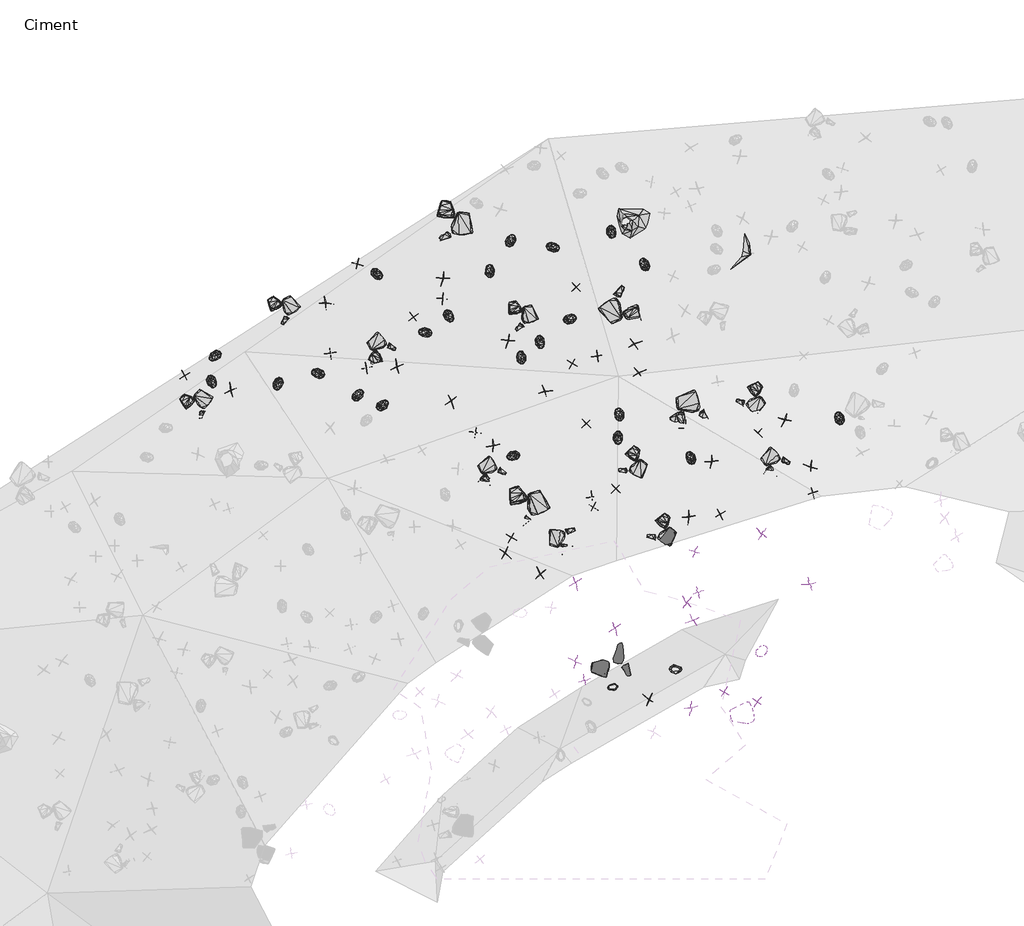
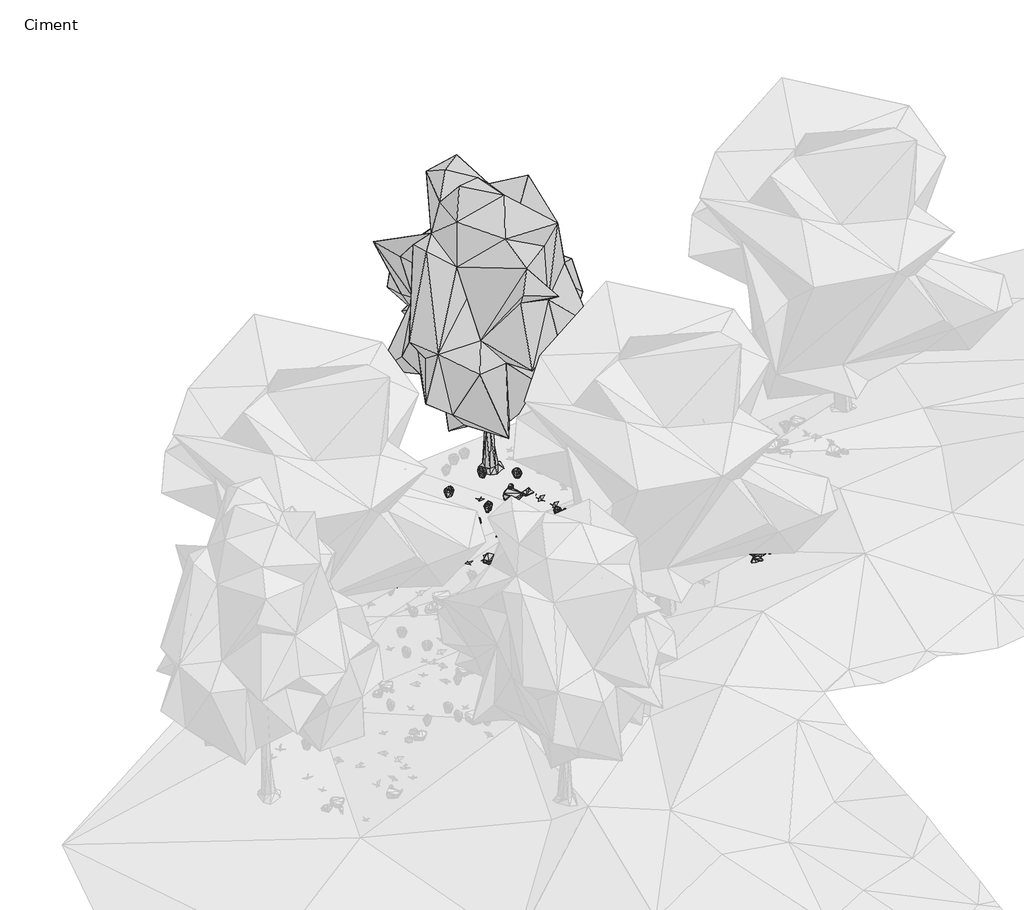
# One storey, part 23 of 30: 90 geographic elements.
"""IFC4 building model written with IfcOpenShell, lengths in millimetres."""

from ifc_helpers import new_model, si_unit, origin, place, context, project, spatial, transform, mapped, element, save
from components import enscape_assetdefinition_bush_025_fern_enscape_5718bf32, enscape_assetdefinition_bush_054_plant_09_version_2_enscape_7b546a12, enscape_assetdefinition_bush_062_plant_09_version_3_enscape_ccf8c8eb, enscape_assetdefinition_deciduous_tree_024_elm_enscape_8f9d8ef3, enscape_assetdefinition_stone_013_group_enscape_516da325, enscape_assetdefinition_stone_013_group_enscape_db9b3e91

model = new_model("IFC4")

# Units and contexts
model_context = context("Model", 3, world=origin())
ifc_project = project(units=[si_unit("LENGTHUNIT", "METRE", prefix="MILLI")], contexts=[model_context])

# Site, building, storey
site = spatial("IfcSite", under=ifc_project)
building = spatial("IfcBuilding", under=site)
storey = spatial("IfcBuildingStorey", under=building, Name="Ciment", Elevation=-1500.0)

# Geographic elements
placement = place(None, origin())
enscape_assetdefinition_bush_025_fern_enscape_shape = enscape_assetdefinition_bush_025_fern_enscape_5718bf32(model_context)
element("IfcGeographicElement", 1, ObjectType="Enscape AssetDefinition - Bush 025 Fern : Enscape AssetDefinition - Bush 025 Fern", at=placement, inside=storey, context=model_context, shape_type="MappedRepresentation", body=[
    mapped(enscape_assetdefinition_bush_025_fern_enscape_shape, transform((-4912.6815796, 19694.4961548, -2589.3216133), x_axis=(0.3183547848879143, -0.9479716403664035, 0.0), y_axis=(0.9479716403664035, 0.3183547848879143, 0.0), z_axis=(0.0, 0.0, 1.0))),
])
element("IfcGeographicElement", 2, ObjectType="Enscape AssetDefinition - Bush 025 Fern : Enscape AssetDefinition - Bush 025 Fern", at=placement, inside=storey, context=model_context, shape_type="MappedRepresentation", body=[
    mapped(enscape_assetdefinition_bush_025_fern_enscape_shape, transform((-4225.6660461, 19037.4736786, -2444.475174), x_axis=(-0.5487676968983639, 0.8359748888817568, 0.0), y_axis=(-0.8359748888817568, -0.5487676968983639, 0.0), z_axis=(0.0, 0.0, 1.0))),
])
element("IfcGeographicElement", 3, ObjectType="Enscape AssetDefinition - Bush 025 Fern : Enscape AssetDefinition - Bush 025 Fern", at=placement, inside=storey, context=model_context, shape_type="MappedRepresentation", body=[
    mapped(enscape_assetdefinition_bush_025_fern_enscape_shape, transform((-11809.4577789, 16556.1981201, -2718.5091972), x_axis=(-0.22429598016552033, -0.9745210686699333, 0.0), y_axis=(0.9745210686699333, -0.22429598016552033, 0.0), z_axis=(0.0, 0.0, 1.0))),
])
element("IfcGeographicElement", 4, ObjectType="Enscape AssetDefinition - Bush 025 Fern : Enscape AssetDefinition - Bush 025 Fern", at=placement, inside=storey, context=model_context, shape_type="MappedRepresentation", body=[
    mapped(enscape_assetdefinition_bush_025_fern_enscape_shape, transform((-13113.2469177, 17137.1498108, -2999.9995232), x_axis=(-0.7090326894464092, -0.7051756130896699, 0.0), y_axis=(0.7051756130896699, -0.7090326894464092, 0.0), z_axis=(0.0, 0.0, 1.0))),
])
element("IfcGeographicElement", 5, ObjectType="Enscape AssetDefinition - Bush 025 Fern : Enscape AssetDefinition - Bush 025 Fern", at=placement, inside=storey, context=model_context, shape_type="MappedRepresentation", body=[
    mapped(enscape_assetdefinition_bush_025_fern_enscape_shape, transform((-6388.6623383, 17417.1581268, -2309.4286919), x_axis=(0.3408758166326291, -0.9401083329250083, 0.0), y_axis=(0.9401083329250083, 0.3408758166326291, 0.0), z_axis=(0.0, 0.0, 1.0))),
])
element("IfcGeographicElement", 6, ObjectType="Enscape AssetDefinition - Bush 025 Fern : Enscape AssetDefinition - Bush 025 Fern", at=placement, inside=storey, context=model_context, shape_type="MappedRepresentation", body=[
    mapped(enscape_assetdefinition_bush_025_fern_enscape_shape, transform((-7420.1869965, 18897.9415894, -2681.8473339), x_axis=(-0.15301906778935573, 0.988223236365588, 0.0), y_axis=(-0.988223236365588, -0.15301906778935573, 0.0), z_axis=(0.0, 0.0, 1.0))),
])
element("IfcGeographicElement", 7, ObjectType="Enscape AssetDefinition - Bush 025 Fern : Enscape AssetDefinition - Bush 025 Fern", at=placement, inside=storey, context=model_context, shape_type="MappedRepresentation", body=[
    mapped(enscape_assetdefinition_bush_025_fern_enscape_shape, transform((-4887.0887756, 10288.6075974, -371.833086), x_axis=(-0.9799940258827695, -0.19902690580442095, 0.0), y_axis=(0.19902690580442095, -0.9799940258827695, 0.0), z_axis=(0.0, 0.0, 1.0))),
])
element("IfcGeographicElement", 8, ObjectType="Enscape AssetDefinition - Bush 025 Fern : Enscape AssetDefinition - Bush 025 Fern", at=placement, inside=storey, context=model_context, shape_type="MappedRepresentation", body=[
    mapped(enscape_assetdefinition_bush_025_fern_enscape_shape, transform((-8766.3269043, 17628.5648346, -2627.0060539), x_axis=(-0.9991022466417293, 0.04236390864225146, 0.0), y_axis=(-0.04236390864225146, -0.9991022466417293, 0.0), z_axis=(0.0, 0.0, 1.0))),
])
element("IfcGeographicElement", 9, ObjectType="Enscape AssetDefinition - Bush 025 Fern : Enscape AssetDefinition - Bush 025 Fern", at=placement, inside=storey, context=model_context, shape_type="MappedRepresentation", body=[
    mapped(enscape_assetdefinition_bush_025_fern_enscape_shape, transform((-3267.742157, 15037.18853, -1036.5991592), x_axis=(-0.5101921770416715, 0.860060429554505, 0.0), y_axis=(-0.860060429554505, -0.5101921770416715, 0.0), z_axis=(0.0, 0.0, 1.0))),
])
element("IfcGeographicElement", 10, ObjectType="Enscape AssetDefinition - Bush 025 Fern : Enscape AssetDefinition - Bush 025 Fern", at=placement, inside=storey, context=model_context, shape_type="MappedRepresentation", body=[
    mapped(enscape_assetdefinition_bush_025_fern_enscape_shape, transform((-3573.1983185, 10655.1980972, -447.3353624), x_axis=(0.999863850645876, -0.01650091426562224, 0.0), y_axis=(0.01650091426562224, 0.999863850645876, 0.0), z_axis=(0.0, 0.0, 1.0))),
])
element("IfcGeographicElement", 11, ObjectType="Enscape AssetDefinition - Bush 025 Fern : Enscape AssetDefinition - Bush 025 Fern", at=placement, inside=storey, context=model_context, shape_type="MappedRepresentation", body=[
    mapped(enscape_assetdefinition_bush_025_fern_enscape_shape, transform((-6110.5399132, 19379.1122437, -2607.8710556), x_axis=(0.9918097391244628, -0.12772408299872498, 0.0), y_axis=(0.12772408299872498, 0.9918097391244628, 0.0), z_axis=(0.0, 0.0, 1.0))),
])
element("IfcGeographicElement", 12, ObjectType="Enscape AssetDefinition - Bush 025 Fern : Enscape AssetDefinition - Bush 025 Fern", at=placement, inside=storey, context=model_context, shape_type="MappedRepresentation", body=[
    mapped(enscape_assetdefinition_bush_025_fern_enscape_shape, transform((-10142.0545578, 16331.2492371, -2466.5060043), x_axis=(0.566120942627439, 0.8243221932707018, 0.0), y_axis=(-0.8243221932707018, 0.566120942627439, 0.0), z_axis=(0.0, 0.0, 1.0))),
])
element("IfcGeographicElement", 13, ObjectType="Enscape AssetDefinition - Bush 025 Fern : Enscape AssetDefinition - Bush 025 Fern", at=placement, inside=storey, context=model_context, shape_type="MappedRepresentation", body=[
    mapped(enscape_assetdefinition_bush_025_fern_enscape_shape, transform((-6982.4771881, 19526.7906189, -2736.1834049), x_axis=(0.3200768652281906, 0.9473915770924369, 0.0), y_axis=(-0.9473915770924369, 0.3200768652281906, 0.0), z_axis=(0.0, 0.0, 1.0))),
])
element("IfcGeographicElement", 14, ObjectType="Enscape AssetDefinition - Bush 025 Fern : Enscape AssetDefinition - Bush 025 Fern", at=placement, inside=storey, context=model_context, shape_type="MappedRepresentation", body=[
    mapped(enscape_assetdefinition_bush_025_fern_enscape_shape, transform((-6772.5105286, 17112.4324799, -2303.4591675), x_axis=(-0.29993198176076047, 0.9539605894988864, 0.0), y_axis=(-0.9539605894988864, -0.29993198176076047, 0.0), z_axis=(0.0, 0.0, 1.0))),
])
element("IfcGeographicElement", 15, ObjectType="Enscape AssetDefinition - Bush 025 Fern : Enscape AssetDefinition - Bush 025 Fern", at=placement, inside=storey, context=model_context, shape_type="MappedRepresentation", body=[
    mapped(enscape_assetdefinition_bush_025_fern_enscape_shape, transform((-1792.4766541, 11036.2262726, -198.1508732), x_axis=(0.5283994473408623, 0.8489958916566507, 0.0), y_axis=(-0.8489958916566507, 0.5283994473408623, 0.0), z_axis=(0.0, 0.0, 1.0))),
])
element("IfcGeographicElement", 16, ObjectType="Enscape AssetDefinition - Bush 025 Fern : Enscape AssetDefinition - Bush 025 Fern", at=placement, inside=storey, context=model_context, shape_type="MappedRepresentation", body=[
    mapped(enscape_assetdefinition_bush_025_fern_enscape_shape, transform((-5756.975174, 17899.7764587, -2316.0667419), x_axis=(0.8886945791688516, 0.45849966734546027, 0.0), y_axis=(-0.45849966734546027, 0.8886945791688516, 0.0), z_axis=(0.0, 0.0, 1.0))),
])
element("IfcGeographicElement", 17, ObjectType="Enscape AssetDefinition - Bush 025 Fern : Enscape AssetDefinition - Bush 025 Fern", at=placement, inside=storey, context=model_context, shape_type="MappedRepresentation", body=[
    mapped(enscape_assetdefinition_bush_025_fern_enscape_shape, transform((-4776.3710022, 15435.4429245, -1425.8910418), x_axis=(0.15044176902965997, -0.9886188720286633, 0.0), y_axis=(0.9886188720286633, 0.15044176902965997, 0.0), z_axis=(0.0, 0.0, 1.0))),
])
element("IfcGeographicElement", 18, ObjectType="Enscape AssetDefinition - Bush 025 Fern : Enscape AssetDefinition - Bush 025 Fern", at=placement, inside=storey, context=model_context, shape_type="MappedRepresentation", body=[
    mapped(enscape_assetdefinition_bush_025_fern_enscape_shape, transform((-8272.0127106, 17952.9819489, -2623.2070923), x_axis=(0.6260952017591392, -0.77974662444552, 0.0), y_axis=(0.77974662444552, 0.6260952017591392, 0.0), z_axis=(0.0, 0.0, 1.0))),
])
element("IfcGeographicElement", 19, ObjectType="Enscape AssetDefinition - Bush 025 Fern : Enscape AssetDefinition - Bush 025 Fern", at=placement, inside=storey, context=model_context, shape_type="MappedRepresentation", body=[
    mapped(enscape_assetdefinition_bush_025_fern_enscape_shape, transform((-9754.9781799, 18820.8007812, -2945.6019402), x_axis=(0.8645845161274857, -0.5024874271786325, 0.0), y_axis=(0.5024874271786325, 0.8645845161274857, 0.0), z_axis=(0.0, 0.0, 1.0))),
])
element("IfcGeographicElement", 20, ObjectType="Enscape AssetDefinition - Bush 025 Fern : Enscape AssetDefinition - Bush 025 Fern", at=placement, inside=storey, context=model_context, shape_type="MappedRepresentation", body=[
    mapped(enscape_assetdefinition_bush_025_fern_enscape_shape, transform((-189.8975372, 15855.1130295, -1205.4451704), x_axis=(-0.41209623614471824, 0.9111403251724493, 0.0), y_axis=(-0.9111403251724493, -0.41209623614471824, 0.0), z_axis=(0.0, 0.0, 1.0))),
])
element("IfcGeographicElement", 21, ObjectType="Enscape AssetDefinition - Bush 025 Fern : Enscape AssetDefinition - Bush 025 Fern", at=placement, inside=storey, context=model_context, shape_type="MappedRepresentation", body=[
    mapped(enscape_assetdefinition_bush_025_fern_enscape_shape, transform((-13173.5210419, 16598.8998413, -2959.851265), x_axis=(0.5364966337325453, -0.8439024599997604, 0.0), y_axis=(0.8439024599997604, 0.5364966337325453, 0.0), z_axis=(0.0, 0.0, 1.0))),
])
element("IfcGeographicElement", 22, ObjectType="Enscape AssetDefinition - Bush 025 Fern : Enscape AssetDefinition - Bush 025 Fern", at=placement, inside=storey, context=model_context, shape_type="MappedRepresentation", body=[
    mapped(enscape_assetdefinition_bush_025_fern_enscape_shape, transform((-4743.1735992, 15933.3076477, -1643.8509226), x_axis=(-0.26148892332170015, 0.9652064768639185, 0.0), y_axis=(-0.9652064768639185, -0.26148892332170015, 0.0), z_axis=(0.0, 0.0, 1.0))),
])
element("IfcGeographicElement", 23, ObjectType="Enscape AssetDefinition - Bush 025 Fern : Enscape AssetDefinition - Bush 025 Fern", at=placement, inside=storey, context=model_context, shape_type="MappedRepresentation", body=[
    mapped(enscape_assetdefinition_bush_025_fern_enscape_shape, transform((-9635.8652115, 16116.1365509, -2344.5174694), x_axis=(0.7308365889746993, 0.6825524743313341, 0.0), y_axis=(-0.6825524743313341, 0.7308365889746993, 0.0), z_axis=(0.0, 0.0, 1.0))),
])
element("IfcGeographicElement", 24, ObjectType="Enscape AssetDefinition - Bush 025 Fern : Enscape AssetDefinition - Bush 025 Fern", at=placement, inside=storey, context=model_context, shape_type="MappedRepresentation", body=[
    mapped(enscape_assetdefinition_bush_025_fern_enscape_shape, transform((-10981.1515808, 16782.6004028, -2698.0805397), x_axis=(-0.9767430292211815, 0.2144132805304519, 0.0), y_axis=(-0.2144132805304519, -0.9767430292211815, 0.0), z_axis=(0.0, 0.0, 1.0))),
])
element("IfcGeographicElement", 25, ObjectType="Enscape AssetDefinition - Bush 025 Fern : Enscape AssetDefinition - Bush 025 Fern", at=placement, inside=storey, context=model_context, shape_type="MappedRepresentation", body=[
    mapped(enscape_assetdefinition_bush_025_fern_enscape_shape, transform((-6945.4612732, 15073.1735229, -1606.1544418), x_axis=(-0.9158306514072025, -0.4015647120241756, 0.0), y_axis=(0.4015647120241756, -0.9158306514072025, 0.0), z_axis=(0.0, 0.0, 1.0))),
])
enscape_assetdefinition_bush_054_plant_09_version_2_enscape_shape = enscape_assetdefinition_bush_054_plant_09_version_2_enscape_7b546a12(model_context)
element("IfcGeographicElement", 26, ObjectType="Enscape AssetDefinition - Bush 054 Plant 09, Version 2 : Enscape AssetDefinition - Bush 054 Plant 09, Version 2", at=placement, inside=storey, context=model_context, shape_type="MappedRepresentation", body=[
    mapped(enscape_assetdefinition_bush_054_plant_09_version_2_enscape_shape, transform((-9008.3789825, 17939.2871857, -2708.1887722), x_axis=(0.6469254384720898, -0.7625532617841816, 0.0), y_axis=(0.7625532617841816, 0.6469254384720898, 0.0), z_axis=(0.0, 0.0, 1.0))),
])
element("IfcGeographicElement", 27, ObjectType="Enscape AssetDefinition - Bush 054 Plant 09, Version 2 : Enscape AssetDefinition - Bush 054 Plant 09, Version 2", at=placement, inside=storey, context=model_context, shape_type="MappedRepresentation", body=[
    mapped(enscape_assetdefinition_bush_054_plant_09_version_2_enscape_shape, transform((-5467.8516388, 10430.0861359, -279.2385817), x_axis=(0.30696778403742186, -0.9517199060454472, 0.0), y_axis=(0.9517199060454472, 0.30696778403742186, 0.0), z_axis=(0.0, 0.0, 1.0))),
])
element("IfcGeographicElement", 28, ObjectType="Enscape AssetDefinition - Bush 054 Plant 09, Version 2 : Enscape AssetDefinition - Bush 054 Plant 09, Version 2", at=placement, inside=storey, context=model_context, shape_type="MappedRepresentation", body=[
    mapped(enscape_assetdefinition_bush_054_plant_09_version_2_enscape_shape, transform((-2659.1300964, 13866.6687012, -428.0198812), x_axis=(-0.8456550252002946, -0.5337298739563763, 0.0), y_axis=(0.5337298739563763, -0.8456550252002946, 0.0), z_axis=(0.0, 0.0, 1.0))),
])
element("IfcGeographicElement", 29, ObjectType="Enscape AssetDefinition - Bush 054 Plant 09, Version 2 : Enscape AssetDefinition - Bush 054 Plant 09, Version 2", at=placement, inside=storey, context=model_context, shape_type="MappedRepresentation", body=[
    mapped(enscape_assetdefinition_bush_054_plant_09_version_2_enscape_shape, transform((-5716.9532776, 16976.5167236, -2155.3649902), x_axis=(0.4449986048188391, 0.8955312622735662, 0.0), y_axis=(-0.8955312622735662, 0.4449986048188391, 0.0), z_axis=(0.0, 0.0, 1.0))),
])
element("IfcGeographicElement", 30, ObjectType="Enscape AssetDefinition - Bush 054 Plant 09, Version 2 : Enscape AssetDefinition - Bush 054 Plant 09, Version 2", at=placement, inside=storey, context=model_context, shape_type="MappedRepresentation", body=[
    mapped(enscape_assetdefinition_bush_054_plant_09_version_2_enscape_shape, transform((-2578.962326, 10189.2271042, -236.0366583), x_axis=(-0.4748401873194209, -0.8800720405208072, 0.0), y_axis=(0.8800720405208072, -0.4748401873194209, 0.0), z_axis=(0.0, 0.0, 1.0))),
])
element("IfcGeographicElement", 31, ObjectType="Enscape AssetDefinition - Bush 054 Plant 09, Version 2 : Enscape AssetDefinition - Bush 054 Plant 09, Version 2", at=placement, inside=storey, context=model_context, shape_type="MappedRepresentation", body=[
    mapped(enscape_assetdefinition_bush_054_plant_09_version_2_enscape_shape, transform((-3186.0084534, 13084.8970413, -152.2381306), x_axis=(0.958673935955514, -0.2845070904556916, 0.0), y_axis=(0.2845070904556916, 0.958673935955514, 0.0), z_axis=(0.0, 0.0, 1.0))),
])
element("IfcGeographicElement", 32, ObjectType="Enscape AssetDefinition - Bush 054 Plant 09, Version 2 : Enscape AssetDefinition - Bush 054 Plant 09, Version 2", at=placement, inside=storey, context=model_context, shape_type="MappedRepresentation", body=[
    mapped(enscape_assetdefinition_bush_054_plant_09_version_2_enscape_shape, transform((-1874.3783236, 15546.0500717, -1137.3375654), x_axis=(-0.7586055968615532, 0.651550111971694, 0.0), y_axis=(-0.651550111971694, -0.7586055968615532, 0.0), z_axis=(0.0, 0.0, 1.0))),
])
element("IfcGeographicElement", 33, ObjectType="Enscape AssetDefinition - Bush 054 Plant 09, Version 2 : Enscape AssetDefinition - Bush 054 Plant 09, Version 2", at=placement, inside=storey, context=model_context, shape_type="MappedRepresentation", body=[
    mapped(enscape_assetdefinition_bush_054_plant_09_version_2_enscape_shape, transform((-10167.3307419, 19040.5673981, -2999.9995232), x_axis=(-0.19354821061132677, -0.9810907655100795, 0.0), y_axis=(0.9810907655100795, -0.19354821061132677, 0.0), z_axis=(0.0, 0.0, 1.0))),
])
element("IfcGeographicElement", 34, ObjectType="Enscape AssetDefinition - Bush 054 Plant 09, Version 2 : Enscape AssetDefinition - Bush 054 Plant 09, Version 2", at=placement, inside=storey, context=model_context, shape_type="MappedRepresentation", body=[
    mapped(enscape_assetdefinition_bush_054_plant_09_version_2_enscape_shape, transform((-1895.2083588, 9982.3865891, -73.8215446), x_axis=(0.8358775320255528, -0.5489159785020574, 0.0), y_axis=(0.5489159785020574, 0.8358775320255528, 0.0), z_axis=(0.0, 0.0, 1.0))),
])
element("IfcGeographicElement", 35, ObjectType="Enscape AssetDefinition - Bush 054 Plant 09, Version 2 : Enscape AssetDefinition - Bush 054 Plant 09, Version 2", at=placement, inside=storey, context=model_context, shape_type="MappedRepresentation", body=[
    mapped(enscape_assetdefinition_bush_054_plant_09_version_2_enscape_shape, transform((-5426.9142151, 15733.9906693, -1662.0075703), x_axis=(0.6650526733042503, 0.746796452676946, 0.0), y_axis=(-0.746796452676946, 0.6650526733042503, 0.0), z_axis=(0.0, 0.0, 1.0))),
])
element("IfcGeographicElement", 36, ObjectType="Enscape AssetDefinition - Bush 054 Plant 09, Version 2 : Enscape AssetDefinition - Bush 054 Plant 09, Version 2", at=placement, inside=storey, context=model_context, shape_type="MappedRepresentation", body=[
    mapped(enscape_assetdefinition_bush_054_plant_09_version_2_enscape_shape, transform((-6975.4962921, 13377.9573441, -852.5823355), x_axis=(0.45000106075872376, 0.8930280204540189, 0.0), y_axis=(-0.8930280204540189, 0.45000106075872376, 0.0), z_axis=(0.0, 0.0, 1.0))),
])
element("IfcGeographicElement", 37, ObjectType="Enscape AssetDefinition - Bush 054 Plant 09, Version 2 : Enscape AssetDefinition - Bush 054 Plant 09, Version 2", at=placement, inside=storey, context=model_context, shape_type="MappedRepresentation", body=[
    mapped(enscape_assetdefinition_bush_054_plant_09_version_2_enscape_shape, transform((-7716.4955139, 15549.8371124, -1941.1094189), x_axis=(0.07800668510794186, 0.9969528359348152, 0.0), y_axis=(-0.9969528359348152, 0.07800668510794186, 0.0), z_axis=(0.0, 0.0, 1.0))),
])
element("IfcGeographicElement", 38, ObjectType="Enscape AssetDefinition - Bush 054 Plant 09, Version 2 : Enscape AssetDefinition - Bush 054 Plant 09, Version 2", at=placement, inside=storey, context=model_context, shape_type="MappedRepresentation", body=[
    mapped(enscape_assetdefinition_bush_054_plant_09_version_2_enscape_shape, transform((-5279.8748016, 14006.5002441, -866.0410643), x_axis=(-0.891727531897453, 0.4525726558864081, 0.0), y_axis=(-0.4525726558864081, -0.891727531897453, 0.0), z_axis=(0.0, 0.0, 1.0))),
])
element("IfcGeographicElement", 39, ObjectType="Enscape AssetDefinition - Bush 054 Plant 09, Version 2 : Enscape AssetDefinition - Bush 054 Plant 09, Version 2", at=placement, inside=storey, context=model_context, shape_type="MappedRepresentation", body=[
    mapped(enscape_assetdefinition_bush_054_plant_09_version_2_enscape_shape, transform((-4818.1438446, 14383.471489, -961.7717266), x_axis=(0.662220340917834, 0.7493091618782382, 0.0), y_axis=(-0.7493091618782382, 0.662220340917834, 0.0), z_axis=(0.0, 0.0, 1.0))),
])
element("IfcGeographicElement", 40, ObjectType="Enscape AssetDefinition - Bush 054 Plant 09, Version 2 : Enscape AssetDefinition - Bush 054 Plant 09, Version 2", at=placement, inside=storey, context=model_context, shape_type="MappedRepresentation", body=[
    mapped(enscape_assetdefinition_bush_054_plant_09_version_2_enscape_shape, transform((-13739.730835, 16731.0447693, -2999.9995232), x_axis=(0.5296157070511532, -0.8482377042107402, 0.0), y_axis=(0.8482377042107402, 0.5296157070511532, 0.0), z_axis=(0.0, 0.0, 1.0))),
])
element("IfcGeographicElement", 41, ObjectType="Enscape AssetDefinition - Bush 054 Plant 09, Version 2 : Enscape AssetDefinition - Bush 054 Plant 09, Version 2", at=placement, inside=storey, context=model_context, shape_type="MappedRepresentation", body=[
    mapped(enscape_assetdefinition_bush_054_plant_09_version_2_enscape_shape, transform((-743.4539795, 14313.0083084, -359.3782187), x_axis=(-0.9408558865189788, -0.33880702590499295, 0.0), y_axis=(0.33880702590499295, -0.9408558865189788, 0.0), z_axis=(0.0, 0.0, 1.0))),
])
element("IfcGeographicElement", 42, ObjectType="Enscape AssetDefinition - Bush 054 Plant 09, Version 2 : Enscape AssetDefinition - Bush 054 Plant 09, Version 2", at=placement, inside=storey, context=model_context, shape_type="MappedRepresentation", body=[
    mapped(enscape_assetdefinition_bush_054_plant_09_version_2_enscape_shape, transform((-5636.5356445, 18550.901413, -2411.7774963), x_axis=(0.681139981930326, 0.7321532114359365, 0.0), y_axis=(-0.7321532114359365, 0.681139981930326, 0.0), z_axis=(0.0, 0.0, 1.0))),
])
element("IfcGeographicElement", 43, ObjectType="Enscape AssetDefinition - Bush 054 Plant 09, Version 2 : Enscape AssetDefinition - Bush 054 Plant 09, Version 2", at=placement, inside=storey, context=model_context, shape_type="MappedRepresentation", body=[
    mapped(enscape_assetdefinition_bush_054_plant_09_version_2_enscape_shape, transform((-8403.0380249, 18314.7087097, -2699.8429298), x_axis=(0.9996959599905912, -0.02465740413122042, 0.0), y_axis=(0.02465740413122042, 0.9996959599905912, 0.0), z_axis=(0.0, 0.0, 1.0))),
])
element("IfcGeographicElement", 44, ObjectType="Enscape AssetDefinition - Bush 054 Plant 09, Version 2 : Enscape AssetDefinition - Bush 054 Plant 09, Version 2", at=placement, inside=storey, context=model_context, shape_type="MappedRepresentation", body=[
    mapped(enscape_assetdefinition_bush_054_plant_09_version_2_enscape_shape, transform((-3116.3654327, 12252.3832321, -130.3107738), x_axis=(-0.9358680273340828, -0.35235072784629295, 0.0), y_axis=(0.35235072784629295, -0.9358680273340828, 0.0), z_axis=(0.0, 0.0, 1.0))),
])
element("IfcGeographicElement", 45, ObjectType="Enscape AssetDefinition - Bush 054 Plant 09, Version 2 : Enscape AssetDefinition - Bush 054 Plant 09, Version 2", at=placement, inside=storey, context=model_context, shape_type="MappedRepresentation", body=[
    mapped(enscape_assetdefinition_bush_054_plant_09_version_2_enscape_shape, transform((-10716.6442871, 17191.8525696, -2784.4433784), x_axis=(-0.20446049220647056, 0.9788748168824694, 0.0), y_axis=(-0.9788748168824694, -0.20446049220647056, 0.0), z_axis=(0.0, 0.0, 1.0))),
])
element("IfcGeographicElement", 46, ObjectType="Enscape AssetDefinition - Bush 054 Plant 09, Version 2 : Enscape AssetDefinition - Bush 054 Plant 09, Version 2", at=placement, inside=storey, context=model_context, shape_type="MappedRepresentation", body=[
    mapped(enscape_assetdefinition_bush_054_plant_09_version_2_enscape_shape, transform((-5204.7462463, 17129.5833588, -2120.5000877), x_axis=(0.9813568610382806, 0.19219446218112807, 0.0), y_axis=(-0.19219446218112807, 0.9813568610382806, 0.0), z_axis=(0.0, 0.0, 1.0))),
])
element("IfcGeographicElement", 47, ObjectType="Enscape AssetDefinition - Bush 054 Plant 09, Version 2 : Enscape AssetDefinition - Bush 054 Plant 09, Version 2", at=placement, inside=storey, context=model_context, shape_type="MappedRepresentation", body=[
    mapped(enscape_assetdefinition_bush_054_plant_09_version_2_enscape_shape, transform((-9971.1780548, 16896.1982727, -2622.8423119), x_axis=(-0.9731601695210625, -0.23012884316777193, 0.0), y_axis=(0.23012884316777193, -0.9731601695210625, 0.0), z_axis=(0.0, 0.0, 1.0))),
])
element("IfcGeographicElement", 48, ObjectType="Enscape AssetDefinition - Bush 054 Plant 09, Version 2 : Enscape AssetDefinition - Bush 054 Plant 09, Version 2", at=placement, inside=storey, context=model_context, shape_type="MappedRepresentation", body=[
    mapped(enscape_assetdefinition_bush_054_plant_09_version_2_enscape_shape, transform((-5315.3438568, 14222.287178, -968.1682587), x_axis=(0.16615324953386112, -0.9860999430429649, 0.0), y_axis=(0.9860999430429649, 0.16615324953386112, 0.0), z_axis=(0.0, 0.0, 1.0))),
])
enscape_assetdefinition_bush_062_plant_09_version_3_enscape_shape = enscape_assetdefinition_bush_062_plant_09_version_3_enscape_ccf8c8eb(model_context)
element("IfcGeographicElement", 49, ObjectType="Enscape AssetDefinition - Bush 062 Plant 09, Version 3 : Enscape AssetDefinition - Bush 062 Plant 09, Version 3", at=placement, inside=storey, context=model_context, shape_type="MappedRepresentation", body=[
    mapped(enscape_assetdefinition_bush_062_plant_09_version_3_enscape_shape, transform((-3303.4040928, 13796.5154648, -486.8569374), x_axis=(-0.9692846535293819, -0.24594157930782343, 0.0), y_axis=(0.24594157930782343, -0.9692846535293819, 0.0), z_axis=(0.0, 0.0, 1.0))),
])
element("IfcGeographicElement", 50, ObjectType="Enscape AssetDefinition - Bush 062 Plant 09, Version 3 : Enscape AssetDefinition - Bush 062 Plant 09, Version 3", at=placement, inside=storey, context=model_context, shape_type="MappedRepresentation", body=[
    mapped(enscape_assetdefinition_bush_062_plant_09_version_3_enscape_shape, transform((-3257.7438354, 9848.7091064, -171.0724831), x_axis=(-0.9697009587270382, -0.24429500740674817, 0.0), y_axis=(0.24429500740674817, -0.9697009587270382, 0.0), z_axis=(0.0, 0.0, 1.0))),
])
element("IfcGeographicElement", 51, ObjectType="Enscape AssetDefinition - Bush 062 Plant 09, Version 3 : Enscape AssetDefinition - Bush 062 Plant 09, Version 3", at=placement, inside=storey, context=model_context, shape_type="MappedRepresentation", body=[
    mapped(enscape_assetdefinition_bush_062_plant_09_version_3_enscape_shape, transform((-8388.9942169, 18730.2742004, -2768.3753967), x_axis=(-0.9955141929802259, -0.09461232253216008, 0.0), y_axis=(0.09461232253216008, -0.9955141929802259, 0.0), z_axis=(0.0, 0.0, 1.0))),
])
element("IfcGeographicElement", 52, ObjectType="Enscape AssetDefinition - Bush 062 Plant 09, Version 3 : Enscape AssetDefinition - Bush 062 Plant 09, Version 3", at=placement, inside=storey, context=model_context, shape_type="MappedRepresentation", body=[
    mapped(enscape_assetdefinition_bush_062_plant_09_version_3_enscape_shape, transform((-12781.1012268, 16436.378479, -2845.9973335), x_axis=(0.8726142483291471, 0.4884100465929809, 0.0), y_axis=(-0.4884100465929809, 0.8726142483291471, 0.0), z_axis=(0.0, 0.0, 1.0))),
])
element("IfcGeographicElement", 53, ObjectType="Enscape AssetDefinition - Bush 062 Plant 09, Version 3 : Enscape AssetDefinition - Bush 062 Plant 09, Version 3", at=placement, inside=storey, context=model_context, shape_type="MappedRepresentation", body=[
    mapped(enscape_assetdefinition_bush_062_plant_09_version_3_enscape_shape, transform((-7350.7556915, 15269.7753906, -1758.0869198), x_axis=(-0.9590053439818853, -0.28338798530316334, 0.0), y_axis=(0.28338798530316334, -0.9590053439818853, 0.0), z_axis=(0.0, 0.0, 1.0))),
])
element("IfcGeographicElement", 54, ObjectType="Enscape AssetDefinition - Bush 062 Plant 09, Version 3 : Enscape AssetDefinition - Bush 062 Plant 09, Version 3", at=placement, inside=storey, context=model_context, shape_type="MappedRepresentation", body=[
    mapped(enscape_assetdefinition_bush_062_plant_09_version_3_enscape_shape, transform((-6384.4928741, 12637.2690201, -454.7224045), x_axis=(0.6673912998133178, 0.7447072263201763, 0.0), y_axis=(-0.7447072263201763, 0.6673912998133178, 0.0), z_axis=(0.0, 0.0, 1.0))),
])
element("IfcGeographicElement", 55, ObjectType="Enscape AssetDefinition - Bush 062 Plant 09, Version 3 : Enscape AssetDefinition - Bush 062 Plant 09, Version 3", at=placement, inside=storey, context=model_context, shape_type="MappedRepresentation", body=[
    mapped(enscape_assetdefinition_bush_062_plant_09_version_3_enscape_shape, transform((-4424.1847992, 17389.8200989, -2124.0558624), x_axis=(0.6849839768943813, -0.7285581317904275, 0.0), y_axis=(0.7285581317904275, 0.6849839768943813, 0.0), z_axis=(0.0, 0.0, 1.0))),
])
element("IfcGeographicElement", 56, ObjectType="Enscape AssetDefinition - Bush 062 Plant 09, Version 3 : Enscape AssetDefinition - Bush 062 Plant 09, Version 3", at=placement, inside=storey, context=model_context, shape_type="MappedRepresentation", body=[
    mapped(enscape_assetdefinition_bush_062_plant_09_version_3_enscape_shape, transform((-4827.9838562, 11497.9658127, -142.4840689), x_axis=(-0.7658645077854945, -0.6430019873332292, 0.0), y_axis=(0.6430019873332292, -0.7658645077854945, 0.0), z_axis=(0.0, 0.0, 1.0))),
])
element("IfcGeographicElement", 57, ObjectType="Enscape AssetDefinition - Bush 062 Plant 09, Version 3 : Enscape AssetDefinition - Bush 062 Plant 09, Version 3", at=placement, inside=storey, context=model_context, shape_type="MappedRepresentation", body=[
    mapped(enscape_assetdefinition_bush_062_plant_09_version_3_enscape_shape, transform((-4330.1181793, 16797.2869873, -2005.1383972), x_axis=(0.7058404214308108, -0.7083708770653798, 0.0), y_axis=(0.7083708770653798, 0.7058404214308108, 0.0), z_axis=(0.0, 0.0, 1.0))),
])
element("IfcGeographicElement", 58, ObjectType="Enscape AssetDefinition - Bush 062 Plant 09, Version 3 : Enscape AssetDefinition - Bush 062 Plant 09, Version 3", at=placement, inside=storey, context=model_context, shape_type="MappedRepresentation", body=[
    mapped(enscape_assetdefinition_bush_062_plant_09_version_3_enscape_shape, transform((-7041.4295197, 17443.1858063, -2391.2091255), x_axis=(-0.9984788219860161, -0.05513657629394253, 0.0), y_axis=(0.05513657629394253, -0.9984788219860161, 0.0), z_axis=(0.0, 0.0, 1.0))),
])
element("IfcGeographicElement", 59, ObjectType="Enscape AssetDefinition - Bush 062 Plant 09, Version 3 : Enscape AssetDefinition - Bush 062 Plant 09, Version 3", at=placement, inside=storey, context=model_context, shape_type="MappedRepresentation", body=[
    mapped(enscape_assetdefinition_bush_062_plant_09_version_3_enscape_shape, transform((-9347.4502563, 16922.077179, -2562.661171), x_axis=(0.8690333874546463, 0.49475344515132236, 0.0), y_axis=(-0.49475344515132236, 0.8690333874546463, 0.0), z_axis=(0.0, 0.0, 1.0))),
])
element("IfcGeographicElement", 60, ObjectType="Enscape AssetDefinition - Bush 062 Plant 09, Version 3 : Enscape AssetDefinition - Bush 062 Plant 09, Version 3", at=placement, inside=storey, context=model_context, shape_type="MappedRepresentation", body=[
    mapped(enscape_assetdefinition_bush_062_plant_09_version_3_enscape_shape, transform((-6273.9377022, 16405.4679871, -2066.5569305), x_axis=(0.46460229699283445, -0.8855194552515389, 0.0), y_axis=(0.8855194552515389, 0.46460229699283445, 0.0), z_axis=(0.0, 0.0, 1.0))),
])
element("IfcGeographicElement", 61, ObjectType="Enscape AssetDefinition - Bush 062 Plant 09, Version 3 : Enscape AssetDefinition - Bush 062 Plant 09, Version 3", at=placement, inside=storey, context=model_context, shape_type="MappedRepresentation", body=[
    mapped(enscape_assetdefinition_bush_062_plant_09_version_3_enscape_shape, transform((-3356.659174, 12044.6434021, -163.9122963), x_axis=(0.536335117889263, 0.8440051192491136, 0.0), y_axis=(-0.8440051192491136, 0.536335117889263, 0.0), z_axis=(0.0, 0.0, 1.0))),
])
element("IfcGeographicElement", 62, ObjectType="Enscape AssetDefinition - Bush 062 Plant 09, Version 3 : Enscape AssetDefinition - Bush 062 Plant 09, Version 3", at=placement, inside=storey, context=model_context, shape_type="MappedRepresentation", body=[
    mapped(enscape_assetdefinition_bush_062_plant_09_version_3_enscape_shape, transform((-7094.9444771, 13055.015564, -737.2428179), x_axis=(-0.3562141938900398, -0.9344043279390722, 0.0), y_axis=(0.9344043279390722, -0.3562141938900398, 0.0), z_axis=(0.0, 0.0, 1.0))),
])
element("IfcGeographicElement", 63, ObjectType="Enscape AssetDefinition - Bush 062 Plant 09, Version 3 : Enscape AssetDefinition - Bush 062 Plant 09, Version 3", at=placement, inside=storey, context=model_context, shape_type="MappedRepresentation", body=[
    mapped(enscape_assetdefinition_bush_062_plant_09_version_3_enscape_shape, transform((-8217.6475525, 16195.8122253, -2214.1318321), x_axis=(-0.7598498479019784, -0.6500986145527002, 0.0), y_axis=(0.6500986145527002, -0.7598498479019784, 0.0), z_axis=(0.0, 0.0, 1.0))),
])
element("IfcGeographicElement", 64, ObjectType="Enscape AssetDefinition - Bush 062 Plant 09, Version 3 : Enscape AssetDefinition - Bush 062 Plant 09, Version 3", at=placement, inside=storey, context=model_context, shape_type="MappedRepresentation", body=[
    mapped(enscape_assetdefinition_bush_062_plant_09_version_3_enscape_shape, transform((-3228.6605835, 11661.9968414, -271.1167336), x_axis=(-0.6356208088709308, 0.7720014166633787, 0.0), y_axis=(-0.7720014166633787, -0.6356208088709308, 0.0), z_axis=(0.0, 0.0, 1.0))),
])
element("IfcGeographicElement", 65, ObjectType="Enscape AssetDefinition - Bush 062 Plant 09, Version 3 : Enscape AssetDefinition - Bush 062 Plant 09, Version 3", at=placement, inside=storey, context=model_context, shape_type="MappedRepresentation", body=[
    mapped(enscape_assetdefinition_bush_062_plant_09_version_3_enscape_shape, transform((-5663.2480621, 10815.2227402, -176.9243479), x_axis=(0.14033501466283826, 0.9901040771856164, 0.0), y_axis=(-0.9901040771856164, 0.14033501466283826, 0.0), z_axis=(0.0, 0.0, 1.0))),
])
element("IfcGeographicElement", 66, ObjectType="Enscape AssetDefinition - Bush 062 Plant 09, Version 3 : Enscape AssetDefinition - Bush 062 Plant 09, Version 3", at=placement, inside=storey, context=model_context, shape_type="MappedRepresentation", body=[
    mapped(enscape_assetdefinition_bush_062_plant_09_version_3_enscape_shape, transform((-4139.421463, 10035.3755951, -488.3348942), x_axis=(0.31804048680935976, 0.9480771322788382, 0.0), y_axis=(-0.9480771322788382, 0.31804048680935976, 0.0), z_axis=(0.0, 0.0, 1.0))),
])
element("IfcGeographicElement", 67, ObjectType="Enscape AssetDefinition - Bush 062 Plant 09, Version 3 : Enscape AssetDefinition - Bush 062 Plant 09, Version 3", at=placement, inside=storey, context=model_context, shape_type="MappedRepresentation", body=[
    mapped(enscape_assetdefinition_bush_062_plant_09_version_3_enscape_shape, transform((-10805.4294586, 18235.2867126, -2971.2257385), x_axis=(0.24661433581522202, -0.9691137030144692, 0.0), y_axis=(0.9691137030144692, 0.24661433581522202, 0.0), z_axis=(0.0, 0.0, 1.0))),
])
element("IfcGeographicElement", 68, ObjectType="Enscape AssetDefinition - Bush 062 Plant 09, Version 3 : Enscape AssetDefinition - Bush 062 Plant 09, Version 3", at=placement, inside=storey, context=model_context, shape_type="MappedRepresentation", body=[
    mapped(enscape_assetdefinition_bush_062_plant_09_version_3_enscape_shape, transform((-5644.3195343, 12438.7378693, -237.2575998), x_axis=(-0.7975951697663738, -0.6031931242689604, 0.0), y_axis=(0.6031931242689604, -0.7975951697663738, 0.0), z_axis=(0.0, 0.0, 1.0))),
])
element("IfcGeographicElement", 69, ObjectType="Enscape AssetDefinition - Bush 062 Plant 09, Version 3 : Enscape AssetDefinition - Bush 062 Plant 09, Version 3", at=placement, inside=storey, context=model_context, shape_type="MappedRepresentation", body=[
    mapped(enscape_assetdefinition_bush_062_plant_09_version_3_enscape_shape, transform((-2835.0143433, 14943.0484772, -933.9215755), x_axis=(-0.983972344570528, -0.1783211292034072, 0.0), y_axis=(0.1783211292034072, -0.983972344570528, 0.0), z_axis=(0.0, 0.0, 1.0))),
])
element("IfcGeographicElement", 70, ObjectType="Enscape AssetDefinition - Bush 062 Plant 09, Version 3 : Enscape AssetDefinition - Bush 062 Plant 09, Version 3", at=placement, inside=storey, context=model_context, shape_type="MappedRepresentation", body=[
    mapped(enscape_assetdefinition_bush_062_plant_09_version_3_enscape_shape, transform((-1323.6846924, 15806.4002991, -1251.0546446), x_axis=(-0.9955702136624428, 0.09402100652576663, 0.0), y_axis=(-0.09402100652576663, -0.9955702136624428, 0.0), z_axis=(0.0, 0.0, 1.0))),
])
element("IfcGeographicElement", 71, ObjectType="Enscape AssetDefinition - Bush 062 Plant 09, Version 3 : Enscape AssetDefinition - Bush 062 Plant 09, Version 3", at=placement, inside=storey, context=model_context, shape_type="MappedRepresentation", body=[
    mapped(enscape_assetdefinition_bush_062_plant_09_version_3_enscape_shape, transform((-798.3264923, 14836.7061615, -660.3138447), x_axis=(-0.010609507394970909, 0.9999437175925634, 0.0), y_axis=(-0.9999437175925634, -0.010609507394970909, 0.0), z_axis=(0.0, 0.0, 1.0))),
])
element("IfcGeographicElement", 72, ObjectType="Enscape AssetDefinition - Bush 062 Plant 09, Version 3 : Enscape AssetDefinition - Bush 062 Plant 09, Version 3", at=placement, inside=storey, context=model_context, shape_type="MappedRepresentation", body=[
    mapped(enscape_assetdefinition_bush_062_plant_09_version_3_enscape_shape, transform((-1806.6177368, 13462.0008469, -127.7245283), x_axis=(0.4182689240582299, 0.9083232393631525, 0.0), y_axis=(-0.9083232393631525, 0.4182689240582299, 0.0), z_axis=(0.0, 0.0, 1.0))),
])
element("IfcGeographicElement", 73, ObjectType="Enscape AssetDefinition - Bush 062 Plant 09, Version 3 : Enscape AssetDefinition - Bush 062 Plant 09, Version 3", at=placement, inside=storey, context=model_context, shape_type="MappedRepresentation", body=[
    mapped(enscape_assetdefinition_bush_062_plant_09_version_3_enscape_shape, transform((-820.5509186, 12414.2465591, -103.1439304), x_axis=(-0.42255198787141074, 0.9063386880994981, 0.0), y_axis=(-0.9063386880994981, -0.42255198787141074, 0.0), z_axis=(0.0, 0.0, 1.0))),
])
enscape_assetdefinition_deciduous_tree_024_elm_enscape_shape = enscape_assetdefinition_deciduous_tree_024_elm_enscape_8f9d8ef3(model_context)
element("IfcGeographicElement", 74, ObjectType="Enscape AssetDefinition - Deciduous Tree 024 Elm : Enscape AssetDefinition - Deciduous Tree 024 Elm", at=placement, inside=storey, context=model_context, shape_type="MappedRepresentation", body=[
    mapped(enscape_assetdefinition_deciduous_tree_024_elm_enscape_shape, transform((-4442.7642822, 19812.6087189, -2602.1351814), x_axis=(0.5799828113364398, 0.8146287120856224, 0.0), y_axis=(-0.8146287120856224, 0.5799828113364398, 0.0), z_axis=(0.0, 0.0, 1.0))),
])
enscape_assetdefinition_stone_013_group_enscape_shape = enscape_assetdefinition_stone_013_group_enscape_516da325(model_context)
element("IfcGeographicElement", 75, ObjectType="Enscape AssetDefinition - Stone 013 Group : Enscape AssetDefinition - Stone 013 Group", at=placement, inside=storey, context=model_context, shape_type="MappedRepresentation", body=[
    mapped(enscape_assetdefinition_stone_013_group_enscape_shape, transform((-2147.2017765, 9537.6720428, 17.8272724), x_axis=(0.9444748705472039, 0.3285836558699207, 0.0), y_axis=(-0.3285836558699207, 0.9444748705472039, 0.0), z_axis=(0.0, 0.0, 1.0))),
])
element("IfcGeographicElement", 76, ObjectType="Enscape AssetDefinition - Stone 013 Group : Enscape AssetDefinition - Stone 013 Group", at=placement, inside=storey, context=model_context, shape_type="MappedRepresentation", body=[
    mapped(enscape_assetdefinition_stone_013_group_enscape_shape, transform((-3278.81217, 15977.3302078, -1476.0497808), x_axis=(0.9572420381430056, 0.2892882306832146, 0.0), y_axis=(-0.2892882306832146, 0.9572420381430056, 0.0), z_axis=(0.0, 0.0, 1.0))),
])
element("IfcGeographicElement", 77, ObjectType="Enscape AssetDefinition - Stone 013 Group : Enscape AssetDefinition - Stone 013 Group", at=placement, inside=storey, context=model_context, shape_type="MappedRepresentation", body=[
    mapped(enscape_assetdefinition_stone_013_group_enscape_shape, transform((-6638.8778687, 14021.3718414, -1087.2524977), x_axis=(0.425346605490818, -0.905030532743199, 0.0), y_axis=(0.905030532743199, 0.425346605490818, 0.0), z_axis=(0.0, 0.0, 1.0))),
])
element("IfcGeographicElement", 78, ObjectType="Enscape AssetDefinition - Stone 013 Group : Enscape AssetDefinition - Stone 013 Group", at=placement, inside=storey, context=model_context, shape_type="MappedRepresentation", body=[
    mapped(enscape_assetdefinition_stone_013_group_enscape_shape, transform((-4720.8633423, 18171.3886261, -2284.7588062), x_axis=(-0.5871907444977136, 0.8094485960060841, 0.0), y_axis=(-0.8094485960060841, -0.5871907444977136, 0.0), z_axis=(0.0, 0.0, 1.0))),
])
element("IfcGeographicElement", 79, ObjectType="Enscape AssetDefinition - Stone 013 Group : Enscape AssetDefinition - Stone 013 Group", at=placement, inside=storey, context=model_context, shape_type="MappedRepresentation", body=[
    mapped(enscape_assetdefinition_stone_013_group_enscape_shape, transform((-8200.6034851, 19868.1678772, -2938.2562637), x_axis=(0.07894194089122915, -0.9968792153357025, 0.0), y_axis=(0.9968792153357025, 0.07894194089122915, 0.0), z_axis=(0.0, 0.0, 1.0))),
])
element("IfcGeographicElement", 80, ObjectType="Enscape AssetDefinition - Stone 013 Group : Enscape AssetDefinition - Stone 013 Group", at=placement, inside=storey, context=model_context, shape_type="MappedRepresentation", body=[
    mapped(enscape_assetdefinition_stone_013_group_enscape_shape, transform((-4843.7461853, 10795.2108383, -277.8376341), x_axis=(0.9995638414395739, 0.029531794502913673, 0.0), y_axis=(-0.029531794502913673, 0.9995638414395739, 0.0), z_axis=(0.0, 0.0, 1.0))),
])
enscape_assetdefinition_stone_013_group_enscape_2_shape = enscape_assetdefinition_stone_013_group_enscape_db9b3e91(model_context)
element("IfcGeographicElement", 81, ObjectType="Enscape AssetDefinition - Stone 013 Group : Enscape AssetDefinition - Stone 013 Group 2", at=placement, inside=storey, context=model_context, shape_type="MappedRepresentation", body=[
    mapped(enscape_assetdefinition_stone_013_group_enscape_2_shape, transform((-4476.0456085, 14885.60009, -1137.9942894), x_axis=(-0.4247826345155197, -0.9052953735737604, 0.0), y_axis=(0.9052953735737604, -0.4247826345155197, 0.0), z_axis=(0.0, 0.0, 1.0))),
])
element("IfcGeographicElement", 82, ObjectType="Enscape AssetDefinition - Stone 013 Group : Enscape AssetDefinition - Stone 013 Group 2", at=placement, inside=storey, context=model_context, shape_type="MappedRepresentation", body=[
    mapped(enscape_assetdefinition_stone_013_group_enscape_2_shape, transform((-5894.8612213, 13347.8889465, -668.5209274), x_axis=(0.08340722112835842, 0.996515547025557, 0.0), y_axis=(-0.996515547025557, 0.08340722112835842, 0.0), z_axis=(0.0, 0.0, 1.0))),
])
element("IfcGeographicElement", 83, ObjectType="Enscape AssetDefinition - Stone 013 Group : Enscape AssetDefinition - Stone 013 Group 2", at=placement, inside=storey, context=model_context, shape_type="MappedRepresentation", body=[
    mapped(enscape_assetdefinition_stone_013_group_enscape_2_shape, transform((-7392.9886818, 14725.3990173, -1521.2408304), x_axis=(0.8065461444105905, 0.5911711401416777, 0.0), y_axis=(-0.5911711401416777, 0.8065461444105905, 0.0), z_axis=(0.0, 0.0, 1.0))),
])
element("IfcGeographicElement", 84, ObjectType="Enscape AssetDefinition - Stone 013 Group : Enscape AssetDefinition - Stone 013 Group 2", at=placement, inside=storey, context=model_context, shape_type="MappedRepresentation", body=[
    mapped(enscape_assetdefinition_stone_013_group_enscape_2_shape, transform((-3874.1681576, 13497.4966049, -433.0699444), x_axis=(-0.5000243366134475, -0.866011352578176, 0.0), y_axis=(0.866011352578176, -0.5000243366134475, 0.0), z_axis=(0.0, 0.0, 1.0))),
])
element("IfcGeographicElement", 85, ObjectType="Enscape AssetDefinition - Stone 013 Group : Enscape AssetDefinition - Stone 013 Group 2", at=placement, inside=storey, context=model_context, shape_type="MappedRepresentation", body=[
    mapped(enscape_assetdefinition_stone_013_group_enscape_2_shape, transform((-6763.8969421, 17949.3331909, -2443.8064098), x_axis=(0.3579887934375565, -0.9337258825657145, 0.0), y_axis=(0.9337258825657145, 0.3579887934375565, 0.0), z_axis=(0.0, 0.0, 1.0))),
])
element("IfcGeographicElement", 86, ObjectType="Enscape AssetDefinition - Stone 013 Group : Enscape AssetDefinition - Stone 013 Group 2", at=placement, inside=storey, context=model_context, shape_type="MappedRepresentation", body=[
    mapped(enscape_assetdefinition_stone_013_group_enscape_2_shape, transform((-13462.1744156, 16136.0397339, -2890.5823231), x_axis=(0.8039440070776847, -0.5947049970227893, 0.0), y_axis=(0.5947049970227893, 0.8039440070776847, 0.0), z_axis=(0.0, 0.0, 1.0))),
])
element("IfcGeographicElement", 87, ObjectType="Enscape AssetDefinition - Stone 013 Group : Enscape AssetDefinition - Stone 013 Group 2", at=placement, inside=storey, context=model_context, shape_type="MappedRepresentation", body=[
    mapped(enscape_assetdefinition_stone_013_group_enscape_2_shape, transform((-2021.1389065, 16241.0907745, -1545.8483696), x_axis=(-0.6763825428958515, -0.7365505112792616, 0.0), y_axis=(0.7365505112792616, -0.6763825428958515, 0.0), z_axis=(0.0, 0.0, 1.0))),
])
element("IfcGeographicElement", 88, ObjectType="Enscape AssetDefinition - Stone 013 Group : Enscape AssetDefinition - Stone 013 Group 2", at=placement, inside=storey, context=model_context, shape_type="MappedRepresentation", body=[
    mapped(enscape_assetdefinition_stone_013_group_enscape_2_shape, transform((-9672.3518372, 17292.0055389, -2677.5627136), x_axis=(0.762204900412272, 0.6473358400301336, 0.0), y_axis=(-0.6473358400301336, 0.762204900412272, 0.0), z_axis=(0.0, 0.0, 1.0))),
])
element("IfcGeographicElement", 89, ObjectType="Enscape AssetDefinition - Stone 013 Group : Enscape AssetDefinition - Stone 013 Group 2", at=placement, inside=storey, context=model_context, shape_type="MappedRepresentation", body=[
    mapped(enscape_assetdefinition_stone_013_group_enscape_2_shape, transform((-11681.6253662, 18095.9625244, -2999.9995232), x_axis=(0.6157789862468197, -0.7879189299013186, 0.0), y_axis=(0.7879189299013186, 0.6157789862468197, 0.0), z_axis=(0.0, 0.0, 1.0))),
])
element("IfcGeographicElement", 90, ObjectType="Enscape AssetDefinition - Stone 013 Group : Enscape AssetDefinition - Stone 013 Group 2", at=placement, inside=storey, context=model_context, shape_type="MappedRepresentation", body=[
    mapped(enscape_assetdefinition_stone_013_group_enscape_2_shape, transform((-1522.6306915, 14918.469429, -754.2523146), x_axis=(0.7194476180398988, 0.6945467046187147, 0.0), y_axis=(-0.6945467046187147, 0.7194476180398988, 0.0), z_axis=(0.0, 0.0, 1.0))),
])

save(model, "model.ifc")
